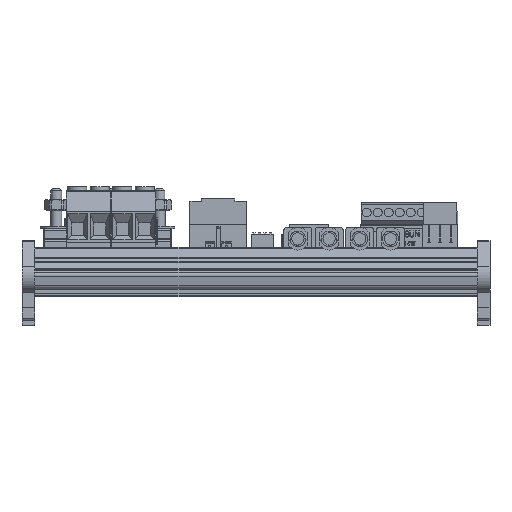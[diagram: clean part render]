
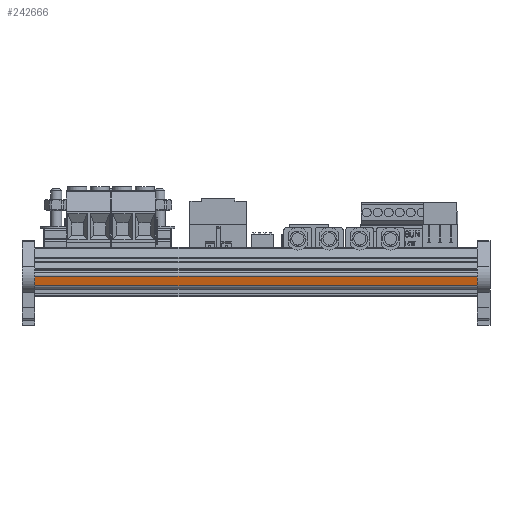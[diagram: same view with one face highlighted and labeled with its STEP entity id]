
A CAD part, front view. The second image highlights one B-rep face of the part: STEP entity #242666.
In plain terms, the highlighted free-form (B-spline) face has degree [1, 1] with [2, 2] control points.
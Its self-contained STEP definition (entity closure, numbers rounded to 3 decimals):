
#232924 = B_SPLINE_SURFACE_WITH_KNOTS('',1,1,(
    (#232925,#232926)
    ,(#232927,#232928
    )),.UNSPECIFIED.,.F.,.F.,.F.,(2,2),(2,2),(-112.497,
    8.897),(-17.3,5.1),.PIECEWISE_BEZIER_KNOTS.);
#232925 = CARTESIAN_POINT('',(60.697,-0.55,104.823));
#232926 = CARTESIAN_POINT('',(60.697,21.85,104.823));
#232927 = CARTESIAN_POINT('',(-60.697,-0.55,104.823));
#232928 = CARTESIAN_POINT('',(-60.697,21.85,104.823));
#232978 = B_SPLINE_SURFACE_WITH_KNOTS('',1,1,(
    (#232979,#232980)
    ,(#232981,#232982
    )),.UNSPECIFIED.,.F.,.F.,.F.,(2,2),(2,2),(-112.497,
    8.897),(-17.3,5.1),.PIECEWISE_BEZIER_KNOTS.);
#232979 = CARTESIAN_POINT('',(60.697,-0.55,-103.146));
#232980 = CARTESIAN_POINT('',(60.697,21.85,-103.146));
#232981 = CARTESIAN_POINT('',(-60.697,-0.55,-103.146));
#232982 = CARTESIAN_POINT('',(-60.697,21.85,-103.146));
#235591 = VERTEX_POINT('',#235592);
#235592 = CARTESIAN_POINT('',(60.67,8.779,-103.146)
  );
#235618 = ( BOUNDED_SURFACE() B_SPLINE_SURFACE(2,1,(
    (#235619,#235620)
    ,(#235621,#235622)
    ,(#235623,#235624
)),.UNSPECIFIED.,.F.,.F.,.F.) B_SPLINE_SURFACE_WITH_KNOTS((3,3),(2,2),(
    1.571,3.336),(-2.,60.),.PIECEWISE_BEZIER_KNOTS.) 
GEOMETRIC_REPRESENTATION_ITEM() RATIONAL_B_SPLINE_SURFACE((
    (1.,1.)
    ,(0.635,0.635)
,(1.,1.))) REPRESENTATION_ITEM('') SURFACE() );
#235619 = CARTESIAN_POINT('',(59.297,10.45,104.823));
#235620 = CARTESIAN_POINT('',(59.297,10.45,-103.146));
#235621 = CARTESIAN_POINT('',(61.,10.45,104.823));
#235622 = CARTESIAN_POINT('',(61.,10.45,-103.146));
#235623 = CARTESIAN_POINT('',(60.67,8.779,104.823)
  );
#235624 = CARTESIAN_POINT('',(60.67,8.779,-103.146)
  );
#235632 = EDGE_CURVE('',#235633,#235591,#235635,.T.);
#235633 = VERTEX_POINT('',#235634);
#235634 = CARTESIAN_POINT('',(59.818,4.463,-103.146
    ));
#235635 = SURFACE_CURVE('',#235636,(#235639,#235646),.PCURVE_S1.);
#235636 = B_SPLINE_CURVE_WITH_KNOTS('',1,(#235637,#235638),
  .UNSPECIFIED.,.F.,.F.,(2,2),(-6.103,-1.703),
  .PIECEWISE_BEZIER_KNOTS.);
#235637 = CARTESIAN_POINT('',(59.818,4.463,-103.146
    ));
#235638 = CARTESIAN_POINT('',(60.67,8.779,-103.146)
  );
#235639 = PCURVE('',#232978,#235640);
#235640 = DEFINITIONAL_REPRESENTATION('',(#235641),#235645);
#235641 = B_SPLINE_CURVE_WITH_KNOTS('',2,(#235642,#235643,#235644),
  .UNSPECIFIED.,.F.,.F.,(3,3),(-6.103,-1.703),
  .PIECEWISE_BEZIER_KNOTS.);
#235642 = CARTESIAN_POINT('',(-111.618,-12.287));
#235643 = CARTESIAN_POINT('',(-112.044,-10.129));
#235644 = CARTESIAN_POINT('',(-112.47,-7.971));
#235645 = ( GEOMETRIC_REPRESENTATION_CONTEXT(2) 
PARAMETRIC_REPRESENTATION_CONTEXT() REPRESENTATION_CONTEXT('2D SPACE',''
  ) );
#235646 = PCURVE('',#235647,#235652);
#235647 = B_SPLINE_SURFACE_WITH_KNOTS('',1,1,(
    (#235648,#235649)
    ,(#235650,#235651
    )),.UNSPECIFIED.,.F.,.F.,.F.,(2,2),(2,2),(-6.103,
    -1.703),(-2.,60.),.PIECEWISE_BEZIER_KNOTS.);
#235648 = CARTESIAN_POINT('',(59.818,4.463,104.823)
  );
#235649 = CARTESIAN_POINT('',(59.818,4.463,-103.146
    ));
#235650 = CARTESIAN_POINT('',(60.67,8.779,104.823)
  );
#235651 = CARTESIAN_POINT('',(60.67,8.779,-103.146)
  );
#235652 = DEFINITIONAL_REPRESENTATION('',(#235653),#235657);
#235653 = B_SPLINE_CURVE_WITH_KNOTS('',2,(#235654,#235655,#235656),
  .UNSPECIFIED.,.F.,.F.,(3,3),(-6.103,-1.703),
  .PIECEWISE_BEZIER_KNOTS.);
#235654 = CARTESIAN_POINT('',(-6.103,60.));
#235655 = CARTESIAN_POINT('',(-3.903,60.));
#235656 = CARTESIAN_POINT('',(-1.703,60.));
#235657 = ( GEOMETRIC_REPRESENTATION_CONTEXT(2) 
PARAMETRIC_REPRESENTATION_CONTEXT() REPRESENTATION_CONTEXT('2D SPACE',''
  ) );
#235686 = ( BOUNDED_SURFACE() B_SPLINE_SURFACE(2,1,(
    (#235687,#235688)
    ,(#235689,#235690)
    ,(#235691,#235692
)),.UNSPECIFIED.,.F.,.F.,.F.) B_SPLINE_SURFACE_WITH_KNOTS((3,3),(2,2),(
    3.336,4.712),(-2.,60.),.PIECEWISE_BEZIER_KNOTS.) 
GEOMETRIC_REPRESENTATION_ITEM() RATIONAL_B_SPLINE_SURFACE((
    (1.,1.)
    ,(0.773,0.773)
,(1.,1.))) REPRESENTATION_ITEM('') SURFACE() );
#235687 = CARTESIAN_POINT('',(59.818,4.463,104.823)
  );
#235688 = CARTESIAN_POINT('',(59.818,4.463,-103.146
    ));
#235689 = CARTESIAN_POINT('',(59.5,2.85,104.823));
#235690 = CARTESIAN_POINT('',(59.5,2.85,-103.146));
#235691 = CARTESIAN_POINT('',(57.856,2.85,104.823));
#235692 = CARTESIAN_POINT('',(57.856,2.85,-103.146));
#237608 = VERTEX_POINT('',#237609);
#237609 = CARTESIAN_POINT('',(59.818,4.463,104.823)
  );
#237641 = EDGE_CURVE('',#237608,#237642,#237644,.T.);
#237642 = VERTEX_POINT('',#237643);
#237643 = CARTESIAN_POINT('',(60.67,8.779,104.823)
  );
#237644 = SURFACE_CURVE('',#237645,(#237648,#237655),.PCURVE_S1.);
#237645 = B_SPLINE_CURVE_WITH_KNOTS('',1,(#237646,#237647),
  .UNSPECIFIED.,.F.,.F.,(2,2),(-6.103,-1.703),
  .PIECEWISE_BEZIER_KNOTS.);
#237646 = CARTESIAN_POINT('',(59.818,4.463,104.823)
  );
#237647 = CARTESIAN_POINT('',(60.67,8.779,104.823)
  );
#237648 = PCURVE('',#232924,#237649);
#237649 = DEFINITIONAL_REPRESENTATION('',(#237650),#237654);
#237650 = B_SPLINE_CURVE_WITH_KNOTS('',2,(#237651,#237652,#237653),
  .UNSPECIFIED.,.F.,.F.,(3,3),(-6.103,-1.703),
  .PIECEWISE_BEZIER_KNOTS.);
#237651 = CARTESIAN_POINT('',(-111.618,-12.287));
#237652 = CARTESIAN_POINT('',(-112.044,-10.129));
#237653 = CARTESIAN_POINT('',(-112.47,-7.971));
#237654 = ( GEOMETRIC_REPRESENTATION_CONTEXT(2) 
PARAMETRIC_REPRESENTATION_CONTEXT() REPRESENTATION_CONTEXT('2D SPACE',''
  ) );
#237655 = PCURVE('',#235647,#237656);
#237656 = DEFINITIONAL_REPRESENTATION('',(#237657),#237661);
#237657 = B_SPLINE_CURVE_WITH_KNOTS('',2,(#237658,#237659,#237660),
  .UNSPECIFIED.,.F.,.F.,(3,3),(-6.103,-1.703),
  .PIECEWISE_BEZIER_KNOTS.);
#237658 = CARTESIAN_POINT('',(-6.103,-2.));
#237659 = CARTESIAN_POINT('',(-3.903,-2.));
#237660 = CARTESIAN_POINT('',(-1.703,-2.));
#237661 = ( GEOMETRIC_REPRESENTATION_CONTEXT(2) 
PARAMETRIC_REPRESENTATION_CONTEXT() REPRESENTATION_CONTEXT('2D SPACE',''
  ) );
#240735 = EDGE_CURVE('',#235633,#237608,#240736,.T.);
#240736 = SURFACE_CURVE('',#240737,(#240740,#240747),.PCURVE_S1.);
#240737 = B_SPLINE_CURVE_WITH_KNOTS('',1,(#240738,#240739),
  .UNSPECIFIED.,.F.,.F.,(2,2),(-60.,2.),.PIECEWISE_BEZIER_KNOTS.);
#240738 = CARTESIAN_POINT('',(59.818,4.463,-103.146
    ));
#240739 = CARTESIAN_POINT('',(59.818,4.463,104.823)
  );
#240740 = PCURVE('',#235686,#240741);
#240741 = DEFINITIONAL_REPRESENTATION('',(#240742),#240746);
#240742 = B_SPLINE_CURVE_WITH_KNOTS('',2,(#240743,#240744,#240745),
  .UNSPECIFIED.,.F.,.F.,(3,3),(-60.,2.),.PIECEWISE_BEZIER_KNOTS.);
#240743 = CARTESIAN_POINT('',(3.336,60.));
#240744 = CARTESIAN_POINT('',(3.336,29.));
#240745 = CARTESIAN_POINT('',(3.336,-2.));
#240746 = ( GEOMETRIC_REPRESENTATION_CONTEXT(2) 
PARAMETRIC_REPRESENTATION_CONTEXT() REPRESENTATION_CONTEXT('2D SPACE',''
  ) );
#240747 = PCURVE('',#235647,#240748);
#240748 = DEFINITIONAL_REPRESENTATION('',(#240749),#240753);
#240749 = B_SPLINE_CURVE_WITH_KNOTS('',2,(#240750,#240751,#240752),
  .UNSPECIFIED.,.F.,.F.,(3,3),(-60.,2.),.PIECEWISE_BEZIER_KNOTS.);
#240750 = CARTESIAN_POINT('',(-6.103,60.));
#240751 = CARTESIAN_POINT('',(-6.103,29.));
#240752 = CARTESIAN_POINT('',(-6.103,-2.));
#240753 = ( GEOMETRIC_REPRESENTATION_CONTEXT(2) 
PARAMETRIC_REPRESENTATION_CONTEXT() REPRESENTATION_CONTEXT('2D SPACE',''
  ) );
#240808 = EDGE_CURVE('',#235591,#237642,#240809,.T.);
#240809 = SURFACE_CURVE('',#240810,(#240813,#240820),.PCURVE_S1.);
#240810 = B_SPLINE_CURVE_WITH_KNOTS('',1,(#240811,#240812),
  .UNSPECIFIED.,.F.,.F.,(2,2),(-60.,2.),.PIECEWISE_BEZIER_KNOTS.);
#240811 = CARTESIAN_POINT('',(60.67,8.779,-103.146)
  );
#240812 = CARTESIAN_POINT('',(60.67,8.779,104.823)
  );
#240813 = PCURVE('',#235618,#240814);
#240814 = DEFINITIONAL_REPRESENTATION('',(#240815),#240819);
#240815 = B_SPLINE_CURVE_WITH_KNOTS('',2,(#240816,#240817,#240818),
  .UNSPECIFIED.,.F.,.F.,(3,3),(-60.,2.),.PIECEWISE_BEZIER_KNOTS.);
#240816 = CARTESIAN_POINT('',(3.336,60.));
#240817 = CARTESIAN_POINT('',(3.336,29.));
#240818 = CARTESIAN_POINT('',(3.336,-2.));
#240819 = ( GEOMETRIC_REPRESENTATION_CONTEXT(2) 
PARAMETRIC_REPRESENTATION_CONTEXT() REPRESENTATION_CONTEXT('2D SPACE',''
  ) );
#240820 = PCURVE('',#235647,#240821);
#240821 = DEFINITIONAL_REPRESENTATION('',(#240822),#240826);
#240822 = B_SPLINE_CURVE_WITH_KNOTS('',2,(#240823,#240824,#240825),
  .UNSPECIFIED.,.F.,.F.,(3,3),(-60.,2.),.PIECEWISE_BEZIER_KNOTS.);
#240823 = CARTESIAN_POINT('',(-1.703,60.));
#240824 = CARTESIAN_POINT('',(-1.703,29.));
#240825 = CARTESIAN_POINT('',(-1.703,-2.));
#240826 = ( GEOMETRIC_REPRESENTATION_CONTEXT(2) 
PARAMETRIC_REPRESENTATION_CONTEXT() REPRESENTATION_CONTEXT('2D SPACE',''
  ) );
#242666 = ADVANCED_FACE('',(#242667),#235647,.F.);
#242667 = FACE_BOUND('',#242668,.T.);
#242668 = EDGE_LOOP('',(#242669,#242670,#242671,#242672));
#242669 = ORIENTED_EDGE('',*,*,#237641,.F.);
#242670 = ORIENTED_EDGE('',*,*,#240735,.F.);
#242671 = ORIENTED_EDGE('',*,*,#235632,.T.);
#242672 = ORIENTED_EDGE('',*,*,#240808,.T.);
